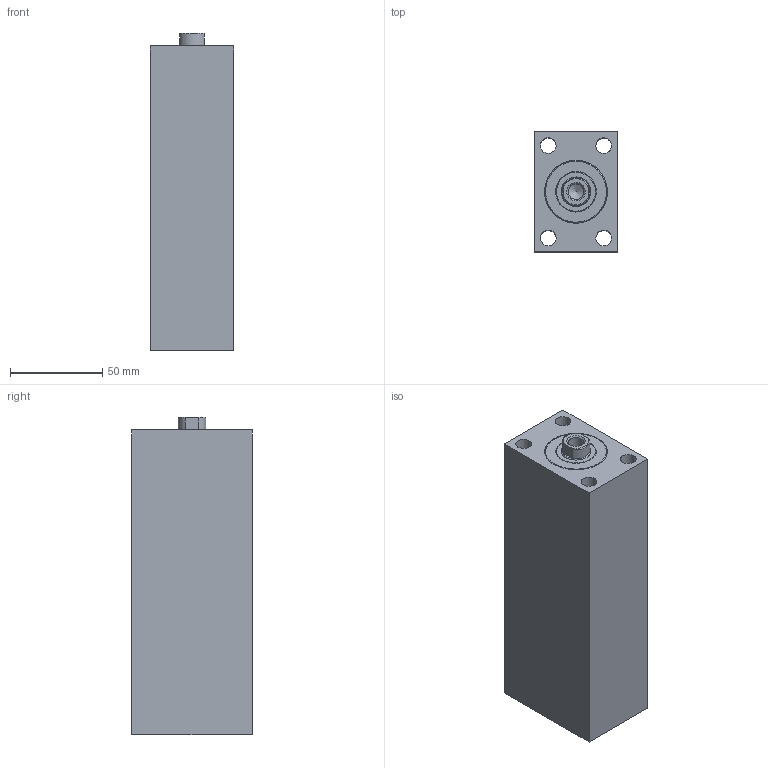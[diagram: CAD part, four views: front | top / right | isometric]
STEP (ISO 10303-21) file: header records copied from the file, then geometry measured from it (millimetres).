
FILE_DESCRIPTION( ( 'STEP AP203' ), '1' );
FILE_NAME( 'C:/Users/SAYKO.ltd/Desktop/SBZ100/02/SBZ100-25/SBZ100.25__FORM_02_STROKE_100__H2_58_POS_0_.stp', ' ', ( ' ' ), ( ' ' ), 'PSStep 15.0.47', 'PARTsolutions', ' ' );
FILE_SCHEMA( ( 'CONFIG_CONTROL_DESIGN' ) );
Length unit declared in the file: millimetre
Products named in the file (5): SBZ100.25  FORM=02 STROKE=100 (H2=58 POS=0); HI_SBZ10025  FORM=02 STROKE=100 H2=58 -C; HI_SBZ10025  FORM=02 STROKE=100-R; HI_SBZ100.25-C; HI_SBZ100.25-S
Assembly tree (4 placements, depth 2):
  SBZ100.25  FORM=02 STROKE=100 (H2=58 POS=0)
    HI_SBZ10025  FORM=02 STROKE=100 H2=58 -C
    HI_SBZ10025  FORM=02 STROKE=100-R
    HI_SBZ100.25-C
    HI_SBZ100.25-S
Bounding box: 45 x 65 x 172 mm (x, y, z)
Volume: 409583.2 mm3; surface area: 90794.3 mm2
Topology: 4 solids, 4 shells, 66 faces, 130 edges, 85 vertices
Faces by surface type: plane 31, cylinder 28, cone 4, torus 3
Full cylindrical faces by diameter (mm): 3 x2, 8.376 x1, 8.5 x4, 11.445 x2, 13.6 x4, 16 x6, 22 x1, 24 x2, 25 x2, 34 x2
Entity records: 3609 total; most frequent: CARTESIAN_POINT 2379, ORIENTED_EDGE 176, DIRECTION 158, EDGE_LOOP 128, FACE_OUTER_BOUND 93, EDGE_CURVE 88, VERTEX_POINT 77, B_SPLINE_CURVE_WITH_KNOTS 72
